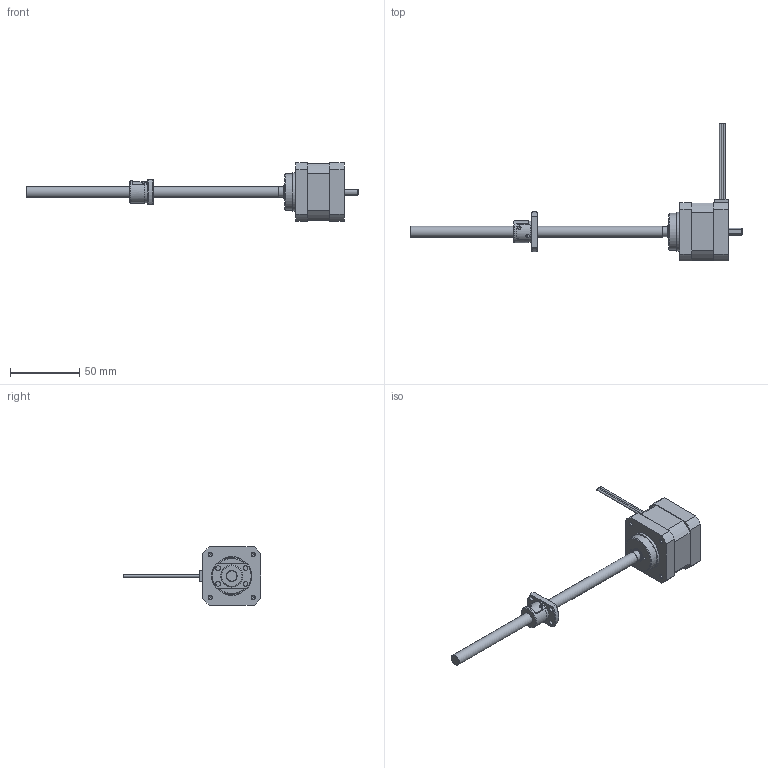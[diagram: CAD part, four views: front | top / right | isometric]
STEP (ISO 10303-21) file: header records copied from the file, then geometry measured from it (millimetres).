
FILE_DESCRIPTION( ( 'STEP AP214' ), ' ' );
FILE_NAME( 'p:/temp/worker_4/3012_2236/app_90_12017090514321829704326260eae72_000000_00_00_000000/format_0/2TMB0801(75).stp', '2017-09-05T12:32:18', ( '' ), ( '' ), ' ', 'PARTsolutions', ' ' );
FILE_SCHEMA( ( 'AUTOMOTIVE_DESIGN { 1 0 10303 214 1 1 1 1 }' ) );
Length unit declared in the file: millimetre
Products named in the file (3): 2TMB0801(75); _2TMB0801 (0)motor; _2TMB0801 (75)nut
Assembly tree (2 placements, depth 2):
  2TMB0801(75)
    _2TMB0801 (0)motor
    _2TMB0801 (75)nut
Bounding box: 240 x 99.5 x 42 mm (x, y, z)
Volume: 76759.3 mm3; surface area: 17954.2 mm2
Topology: 2 solids, 2 shells, 117 faces, 281 edges, 186 vertices
Faces by surface type: plane 54, cylinder 46, cone 17
Full cylindrical faces by diameter (mm): 1.5 x3, 2 x2, 2.459 x4, 2.5 x2, 3.4 x4, 7.3 x1, 8 x2, 15.5 x1, 16 x1, 26.5 x1, 28 x1
Entity records: 4249 total; most frequent: CARTESIAN_POINT 643, DIRECTION 567, ORIENTED_EDGE 466, EDGE_CURVE 233, AXIS2_PLACEMENT_3D 226, EDGE_LOOP 179, VERTEX_POINT 176, FACE_OUTER_BOUND 139
